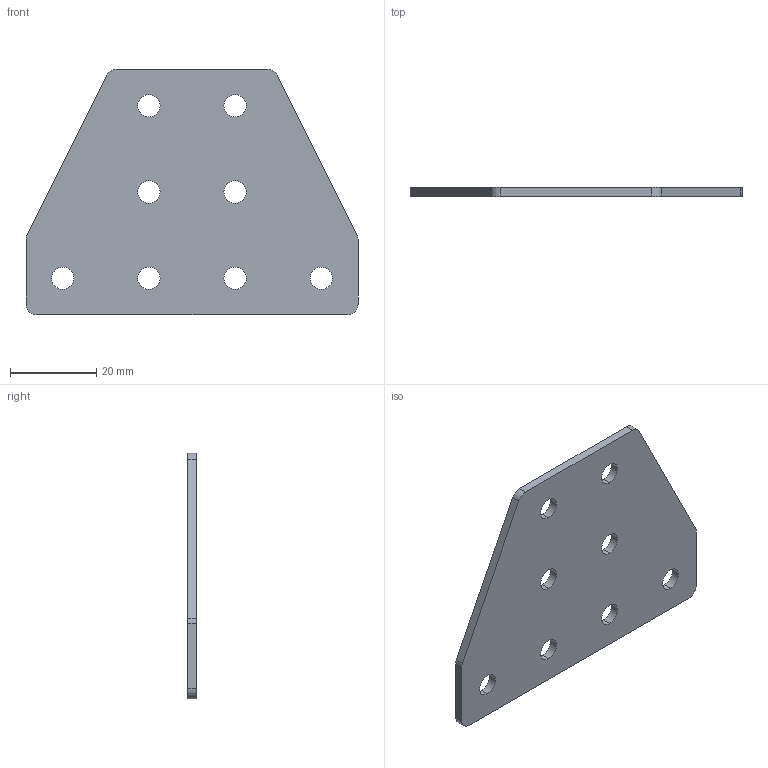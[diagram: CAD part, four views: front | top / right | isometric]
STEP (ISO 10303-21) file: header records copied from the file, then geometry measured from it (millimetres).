
FILE_DESCRIPTION (( 'STEP AP203' ), '1' );
FILE_NAME ('ﾒ-8-ﾓ-20.STEP', '2016-07-22T10:45:00', ( '' ), ( '' ), 'SwSTEP 2.0', 'SolidWorks 2014', '' );
FILE_SCHEMA (( 'CONFIG_CONTROL_DESIGN' ));
Length unit declared in the file: millimetre
Products named in the file (1): ﾒ-8-ﾓ-20
Bounding box: 77 x 2 x 57 mm (x, y, z)
Surface area: 7653.8 mm2 (no closed solid volume)
Topology: 0 solids, 1 shells, 30 faces, 84 edges, 56 vertices
Faces by surface type: cylinder 22, plane 8
Entity records: 1101 total; most frequent: DIRECTION 190, CARTESIAN_POINT 171, ORIENTED_EDGE 168, EDGE_CURVE 84, AXIS2_PLACEMENT_3D 75, VERTEX_POINT 56, EDGE_LOOP 46, CIRCLE 44
